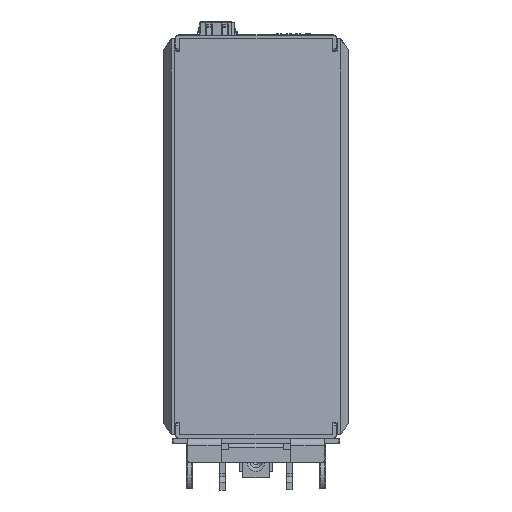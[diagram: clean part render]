
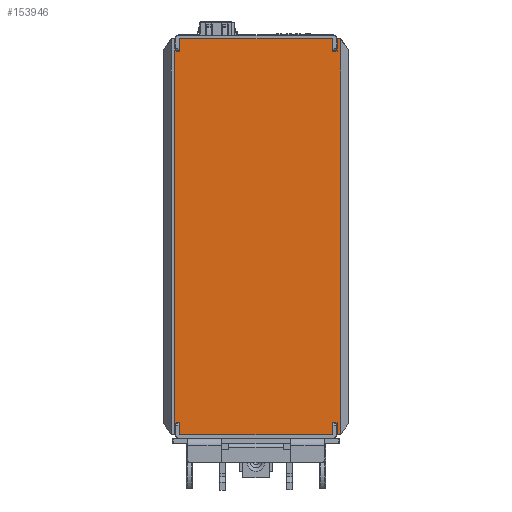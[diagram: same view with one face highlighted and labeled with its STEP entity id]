
A CAD part, front view. The second image highlights one B-rep face of the part: STEP entity #153946.
In plain terms, the highlighted planar face has unit normal (0, -1, -0.001).
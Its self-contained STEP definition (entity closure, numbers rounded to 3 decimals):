
#5554=PLANE('',#165115);
#14232=FACE_OUTER_BOUND('',#22270,.T.);
#22270=EDGE_LOOP('',(#131034,#131035,#131036,#131037,#131038,#131039,#131040,
#131041,#131042,#131043,#131044,#131045,#131046,#131047,#131048,#131049,
#131050));
#27205=CIRCLE('',#165116,0.2);
#40851=LINE('',#258788,#57319);
#40852=LINE('',#258792,#57320);
#40859=LINE('',#258815,#57327);
#40863=LINE('',#258823,#57331);
#40867=LINE('',#258829,#57335);
#40868=LINE('',#258833,#57336);
#40872=LINE('',#258840,#57340);
#40874=LINE('',#258844,#57342);
#40877=LINE('',#258850,#57345);
#40880=LINE('',#258857,#57348);
#40884=LINE('',#258864,#57352);
#40887=LINE('',#258871,#57355);
#40891=LINE('',#258879,#57359);
#40896=LINE('',#258890,#57364);
#40897=LINE('',#258891,#57365);
#40898=LINE('',#258892,#57366);
#57319=VECTOR('',#199270,10.);
#57320=VECTOR('',#199275,10.);
#57327=VECTOR('',#199302,10.);
#57331=VECTOR('',#199306,10.);
#57335=VECTOR('',#199312,10.);
#57336=VECTOR('',#199315,10.);
#57340=VECTOR('',#199321,10.);
#57342=VECTOR('',#199325,10.);
#57345=VECTOR('',#199330,10.);
#57348=VECTOR('',#199335,10.);
#57352=VECTOR('',#199341,10.);
#57355=VECTOR('',#199346,10.);
#57359=VECTOR('',#199352,10.);
#57364=VECTOR('',#199365,10.);
#57365=VECTOR('',#199366,10.);
#57366=VECTOR('',#199367,10.);
#71994=VERTEX_POINT('',#258604);
#72003=VERTEX_POINT('',#258784);
#72004=VERTEX_POINT('',#258791);
#72010=VERTEX_POINT('',#258814);
#72013=VERTEX_POINT('',#258820);
#72014=VERTEX_POINT('',#258822);
#72016=VERTEX_POINT('',#258831);
#72017=VERTEX_POINT('',#258832);
#72020=VERTEX_POINT('',#258843);
#72022=VERTEX_POINT('',#258849);
#72024=VERTEX_POINT('',#258855);
#72025=VERTEX_POINT('',#258856);
#72027=VERTEX_POINT('',#258863);
#72029=VERTEX_POINT('',#258869);
#72030=VERTEX_POINT('',#258870);
#72033=VERTEX_POINT('',#258878);
#72035=VERTEX_POINT('',#258888);
#92134=EDGE_CURVE('',#71994,#72003,#40851,.T.);
#92135=EDGE_CURVE('',#72003,#72004,#40852,.T.);
#92146=EDGE_CURVE('',#72004,#72010,#40859,.T.);
#92150=EDGE_CURVE('',#72013,#72014,#40863,.T.);
#92154=EDGE_CURVE('',#72014,#71994,#40867,.T.);
#92155=EDGE_CURVE('',#72016,#72017,#40868,.T.);
#92159=EDGE_CURVE('',#72010,#72016,#40872,.T.);
#92161=EDGE_CURVE('',#72020,#72013,#40874,.T.);
#92164=EDGE_CURVE('',#72022,#72020,#40877,.T.);
#92167=EDGE_CURVE('',#72024,#72025,#40880,.T.);
#92171=EDGE_CURVE('',#72027,#72024,#40884,.T.);
#92174=EDGE_CURVE('',#72029,#72030,#40887,.T.);
#92178=EDGE_CURVE('',#72033,#72029,#40891,.T.);
#92184=EDGE_CURVE('',#72022,#72035,#27205,.T.);
#92185=EDGE_CURVE('',#72035,#72025,#40896,.T.);
#92186=EDGE_CURVE('',#72030,#72027,#40897,.T.);
#92187=EDGE_CURVE('',#72033,#72017,#40898,.T.);
#131034=ORIENTED_EDGE('',*,*,#92134,.F.);
#131035=ORIENTED_EDGE('',*,*,#92154,.F.);
#131036=ORIENTED_EDGE('',*,*,#92150,.F.);
#131037=ORIENTED_EDGE('',*,*,#92161,.F.);
#131038=ORIENTED_EDGE('',*,*,#92164,.F.);
#131039=ORIENTED_EDGE('',*,*,#92184,.T.);
#131040=ORIENTED_EDGE('',*,*,#92185,.T.);
#131041=ORIENTED_EDGE('',*,*,#92167,.F.);
#131042=ORIENTED_EDGE('',*,*,#92171,.F.);
#131043=ORIENTED_EDGE('',*,*,#92186,.F.);
#131044=ORIENTED_EDGE('',*,*,#92174,.F.);
#131045=ORIENTED_EDGE('',*,*,#92178,.F.);
#131046=ORIENTED_EDGE('',*,*,#92187,.T.);
#131047=ORIENTED_EDGE('',*,*,#92155,.F.);
#131048=ORIENTED_EDGE('',*,*,#92159,.F.);
#131049=ORIENTED_EDGE('',*,*,#92146,.F.);
#131050=ORIENTED_EDGE('',*,*,#92135,.F.);
#153946=ADVANCED_FACE('',(#14232),#5554,.F.);
#165115=AXIS2_PLACEMENT_3D('',#258887,#199361,#199362);
#165116=AXIS2_PLACEMENT_3D('',#258889,#199363,#199364);
#199270=DIRECTION('',(0.,0.001,-1.));
#199275=DIRECTION('',(-1.,0.,0.));
#199302=DIRECTION('',(0.,-0.001,1.));
#199306=DIRECTION('',(0.,-0.001,1.));
#199312=DIRECTION('',(1.,0.,0.));
#199315=DIRECTION('',(0.,0.001,-1.));
#199321=DIRECTION('',(-1.,0.,0.));
#199325=DIRECTION('',(1.,0.,0.));
#199330=DIRECTION('',(0.,0.001,-1.));
#199335=DIRECTION('',(0.,-0.001,1.));
#199341=DIRECTION('',(1.,0.,0.));
#199346=DIRECTION('',(-1.,0.,0.));
#199352=DIRECTION('',(0.,-0.001,1.));
#199361=DIRECTION('center_axis',(0.,1.,
0.001));
#199362=DIRECTION('ref_axis',(0.,-0.001,
1.));
#199363=DIRECTION('center_axis',(0.,-1.,
-0.001));
#199364=DIRECTION('ref_axis',(0.707,-0.001,0.707));
#199365=DIRECTION('',(-1.,0.,0.));
#199366=DIRECTION('',(0.,-0.001,1.));
#199367=DIRECTION('',(1.,0.,0.));
#258604=CARTESIAN_POINT('',(18.504,106.84,235.842));
#258784=CARTESIAN_POINT('',(18.504,106.938,130.842));
#258788=CARTESIAN_POINT('',(18.504,106.865,209.592));
#258791=CARTESIAN_POINT('',(17.544,106.938,130.842));
#258792=CARTESIAN_POINT('',(20.544,106.938,130.842));
#258814=CARTESIAN_POINT('',(17.544,106.935,134.042));
#258815=CARTESIAN_POINT('',(17.544,106.938,130.842));
#258820=CARTESIAN_POINT('',(17.544,106.843,232.642));
#258822=CARTESIAN_POINT('',(17.544,106.84,235.842));
#258823=CARTESIAN_POINT('',(17.544,106.938,130.842));
#258829=CARTESIAN_POINT('',(17.544,106.84,235.842));
#258831=CARTESIAN_POINT('',(16.244,106.935,134.042));
#258832=CARTESIAN_POINT('',(16.244,106.938,130.842));
#258833=CARTESIAN_POINT('',(16.244,106.935,134.042));
#258840=CARTESIAN_POINT('',(17.544,106.935,134.042));
#258843=CARTESIAN_POINT('',(16.245,106.843,232.642));
#258844=CARTESIAN_POINT('',(16.245,106.843,232.642));
#258849=CARTESIAN_POINT('',(16.245,106.84,235.842));
#258850=CARTESIAN_POINT('',(16.245,106.84,235.842));
#258855=CARTESIAN_POINT('',(-24.156,106.843,232.642));
#258856=CARTESIAN_POINT('',(-24.156,106.84,235.842));
#258857=CARTESIAN_POINT('',(-24.156,106.843,232.642));
#258863=CARTESIAN_POINT('',(-25.456,106.843,232.642));
#258864=CARTESIAN_POINT('',(-25.456,106.843,232.642));
#258869=CARTESIAN_POINT('',(-24.156,106.935,134.042));
#258870=CARTESIAN_POINT('',(-25.456,106.935,134.042));
#258871=CARTESIAN_POINT('',(-24.156,106.935,134.042));
#258878=CARTESIAN_POINT('',(-24.156,106.938,130.842));
#258879=CARTESIAN_POINT('',(-24.156,106.938,130.842));
#258887=CARTESIAN_POINT('Origin',(-3.956,106.889,183.342));
#258888=CARTESIAN_POINT('',(16.244,106.84,235.842));
#258889=CARTESIAN_POINT('Origin',(16.244,106.841,235.642));
#258890=CARTESIAN_POINT('',(-25.356,106.84,235.842));
#258891=CARTESIAN_POINT('',(-25.456,106.938,130.842));
#258892=CARTESIAN_POINT('',(17.444,106.938,130.842));
